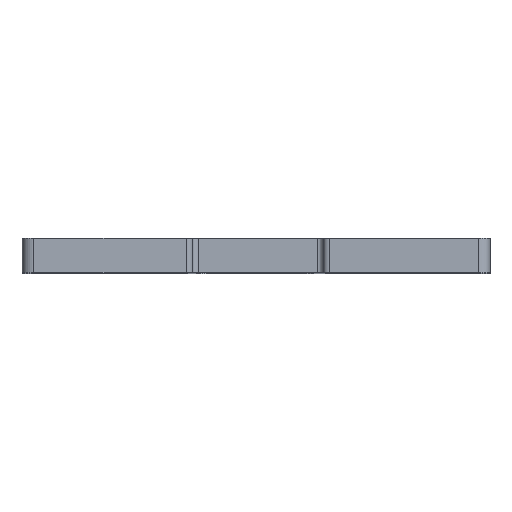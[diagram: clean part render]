
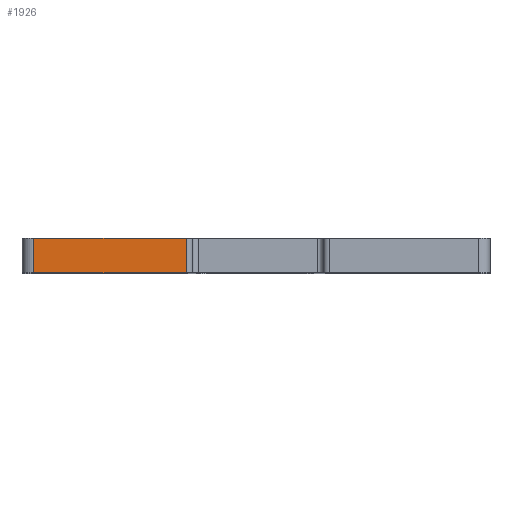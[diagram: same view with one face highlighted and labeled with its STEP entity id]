
A CAD part, top view. The second image highlights one B-rep face of the part: STEP entity #1926.
In plain terms, the highlighted planar face has unit normal (0, 0, 1).
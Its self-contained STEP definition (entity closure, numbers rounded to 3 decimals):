
#124=FACE_OUTER_BOUND('',#258,.T.);
#258=EDGE_LOOP('',(#1607,#1608,#1609,#1610));
#323=LINE('',#2719,#543);
#400=LINE('',#2912,#620);
#498=LINE('',#3134,#718);
#500=LINE('',#3137,#720);
#543=VECTOR('',#2185,10.);
#620=VECTOR('',#2322,10.);
#718=VECTOR('',#2526,10.);
#720=VECTOR('',#2530,10.);
#832=VERTEX_POINT('',#2716);
#833=VERTEX_POINT('',#2718);
#918=VERTEX_POINT('',#2909);
#919=VERTEX_POINT('',#2911);
#1016=EDGE_CURVE('',#832,#833,#323,.T.);
#1112=EDGE_CURVE('',#918,#919,#400,.T.);
#1234=EDGE_CURVE('',#833,#918,#498,.T.);
#1236=EDGE_CURVE('',#919,#832,#500,.T.);
#1607=ORIENTED_EDGE('',*,*,#1234,.F.);
#1608=ORIENTED_EDGE('',*,*,#1016,.F.);
#1609=ORIENTED_EDGE('',*,*,#1236,.F.);
#1610=ORIENTED_EDGE('',*,*,#1112,.F.);
#1852=PLANE('',#2090);
#1926=ADVANCED_FACE('',(#124),#1852,.T.);
#2090=AXIS2_PLACEMENT_3D('',#3136,#2528,#2529);
#2185=DIRECTION('',(1.,0.,0.));
#2322=DIRECTION('',(-1.,0.,0.));
#2526=DIRECTION('',(0.,-1.,0.));
#2528=DIRECTION('center_axis',(0.,0.,1.));
#2529=DIRECTION('ref_axis',(-1.,0.,0.));
#2530=DIRECTION('',(0.,1.,0.));
#2716=CARTESIAN_POINT('',(100.173,7.6,78.076));
#2718=CARTESIAN_POINT('',(126.65,7.6,78.076));
#2719=CARTESIAN_POINT('',(157.424,7.6,78.076));
#2909=CARTESIAN_POINT('',(126.65,1.6,78.076));
#2911=CARTESIAN_POINT('',(100.173,1.6,78.076));
#2912=CARTESIAN_POINT('',(157.424,1.6,78.076));
#3134=CARTESIAN_POINT('',(126.65,3.85,78.076));
#3136=CARTESIAN_POINT('Origin',(176.174,6.1,78.076));
#3137=CARTESIAN_POINT('',(100.173,5.85,78.076));
